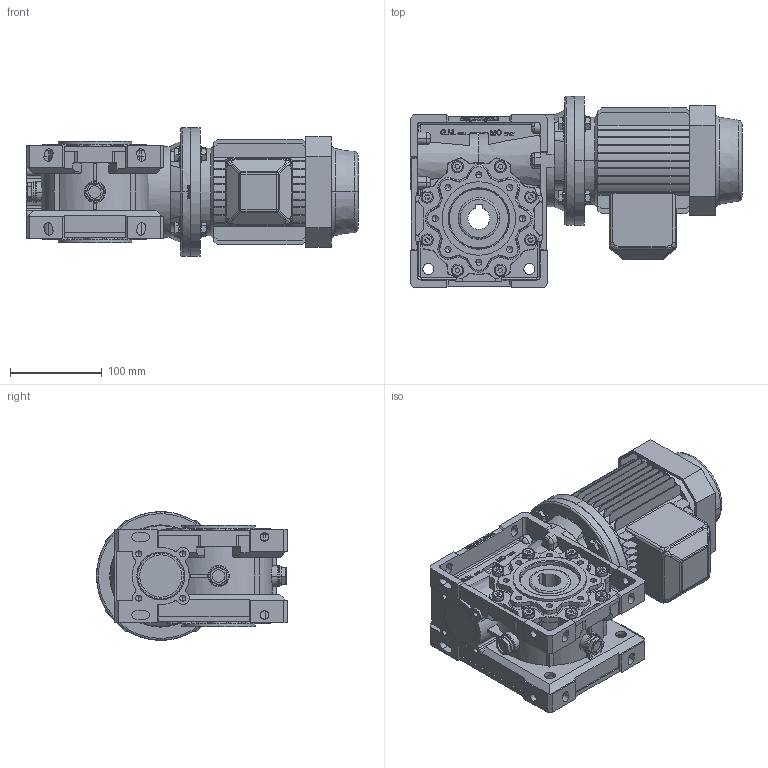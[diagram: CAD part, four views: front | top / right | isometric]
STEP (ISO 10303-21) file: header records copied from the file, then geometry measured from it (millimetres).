
FILE_DESCRIPTION((''),'2;1');
FILE_NAME('F:\Ghirri\3D\MV_V63\MV63_B5-63.stp','2005-06-15T17:00:35',('Administrator'),(''),'Autodesk Inventor 9','Autodesk Inventor 9','');
FILE_SCHEMA(('AUTOMOTIVE_DESIGN { 1 0 10303 214 1 1 1 1 }'));
Length unit declared in the file: millimetre
Products named in the file (16): MV63_B5-63; 4006301-A0; 4006304-A0; TCCE-8X16-ribassata; 4006308-A0; UNI-ISO 6194-1 (4) Tipo4 45 x  65 x  8; Capp-52-7; Guarnizione-tappo-3-8-gas; Tappo-3-8-gas-nero; DIN 3760  AS  (destra) AS - 35 x 62 x 7 - NBR; motori B5 63; FM-63-75-D=140_1; FM-63-75-D=140; UNI 6593 9 x 17; UNI 5739  (Filetto regolare) M8 x 30; UNI 5589  (Filetto regolare) M8
Assembly tree (40 placements, depth 3):
  MV63_B5-63
    4006301-A0
    4006304-A0
    TCCE-8X16-ribassata  x8
    4006308-A0
    UNI-ISO 6194-1 (4) Tipo4 45 x  65 x  8  x2
    Capp-52-7
    Guarnizione-tappo-3-8-gas  x3
    Tappo-3-8-gas-nero  x3
    DIN 3760  AS  (destra) AS - 35 x 62 x 7 - NBR
    motori B5 63
    FM-63-75-D=140_1
      FM-63-75-D=140
      UNI 6593 9 x 17  x8
      UNI 5739  (Filetto regolare) M8 x 30  x4
      UNI 5589  (Filetto regolare) M8  x4
Bounding box: 361.5 x 208 x 140 mm (x, y, z)
Volume: 3742847.9 mm3; surface area: 594068.5 mm2
Topology: 39 solids, 40 shells, 4157 faces, 10749 edges, 6785 vertices
Faces by surface type: plane 1603, cylinder 1262, bspline 928, cone 262, torus 98, sphere 4
Entity records: 134701 total; most frequent: CARTESIAN_POINT 46728, ORIENTED_EDGE 19050, DIRECTION 17444, EDGE_CURVE 9525, AXIS2_PLACEMENT_3D 6128, VERTEX_POINT 6119, VECTOR 5188, LINE 5188
